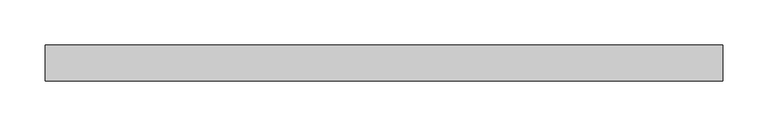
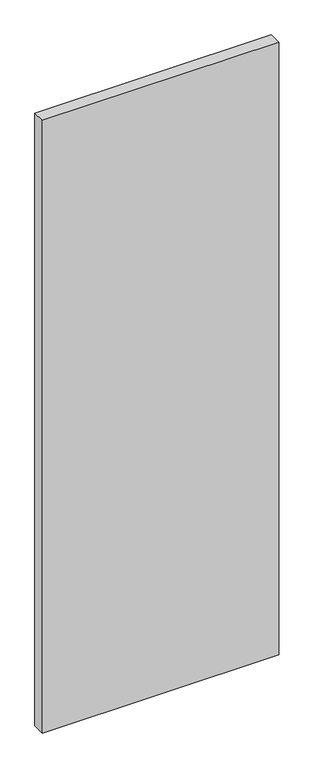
"""IFC4 building model written with IfcOpenShell, lengths in millimetres: plate geometry, Panneau système : Vitre 4cm."""

from ifc_helpers import new_model, si_unit, origin, origin_with_axes, place, context, project, spatial, polyline, outline, extrude, source, transform, mapped, element, save


def plate_7e5fd590(model_context):
    return source(origin(), model_context, "Body", "SweptSolid", [
        extrude(outline(polyline([(374.1244143, -20.0), (-374.1244143, -20.0), (-374.1244143, 20.0), (374.1244143, 20.0), (374.1244143, -20.0)])), origin_with_axes(), (0.0, 0.0, 1.0), 2050.0),
    ])


if __name__ == "__main__":
    model = new_model("IFC4")
    model_context = context("Model", 3, world=origin())
    ifc_project = project(units=[si_unit("LENGTHUNIT", "METRE", prefix="MILLI")], contexts=[model_context])
    site = spatial("IfcSite", under=ifc_project)
    building = spatial("IfcBuilding", under=site)
    placement = place(None, origin())
    plate_shape = plate_7e5fd590(model_context)
    element("IfcPlate", 1, ObjectType="Panneau système : Vitre 4cm", at=placement, inside=building, context=model_context, shape_type="MappedRepresentation", body=[
        mapped(plate_shape, transform((0.0, 0.0, 0.0), x_axis=(1.0, 0.0, 0.0), y_axis=(0.0, 1.0, 0.0), z_axis=(0.0, 0.0, 1.0))),
    ])
    save(model, "model.ifc")
